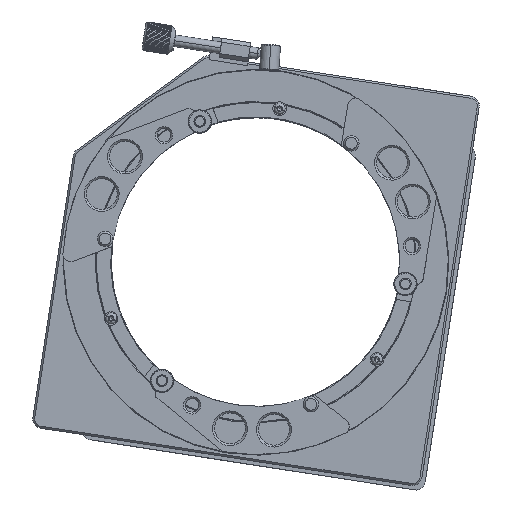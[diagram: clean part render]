
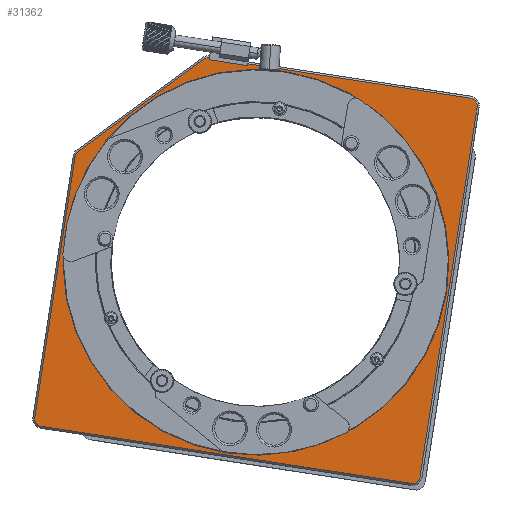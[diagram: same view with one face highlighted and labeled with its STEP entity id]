
A CAD part, top view. The second image highlights one B-rep face of the part: STEP entity #31362.
In plain terms, the highlighted planar face has unit normal (-0.002, 0, 1).
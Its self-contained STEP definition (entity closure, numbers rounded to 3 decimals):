
#4788=CARTESIAN_POINT('',(18.626,99.574,9.824));
#4789=VERTEX_POINT('',#4788);
#4798=CARTESIAN_POINT('',(202.448,71.198,10.242));
#4799=VERTEX_POINT('',#4798);
#4800=CARTESIAN_POINT('',(110.537,85.386,10.033));
#4801=DIRECTION('',(-0.002,0.,1.));
#4802=DIRECTION('',(-0.988,0.153,-0.002));
#4803=AXIS2_PLACEMENT_3D('',#4800,#4801,#4802);
#4804=CIRCLE('',#4803,93.0);
#4805=EDGE_CURVE('',#4789,#4799,#4804,.T.);
#10733=CARTESIAN_POINT('',(86.414,191.305,9.95));
#10734=VERTEX_POINT('',#10733);
#10748=CARTESIAN_POINT('',(86.261,190.317,9.95));
#10749=VERTEX_POINT('',#10748);
#10750=CARTESIAN_POINT('',(86.261,190.317,9.95));
#10751=DIRECTION('',(0.153,0.988,0.));
#10752=VECTOR('',#10751,0.999);
#10753=LINE('',#10750,#10752);
#10754=EDGE_CURVE('',#10749,#10734,#10753,.T.);
#10794=CARTESIAN_POINT('',(106.027,187.266,9.995));
#10795=VERTEX_POINT('',#10794);
#10796=CARTESIAN_POINT('',(106.027,187.266,9.995));
#10797=DIRECTION('',(-0.988,0.153,-0.002));
#10798=VECTOR('',#10797,20.);
#10799=LINE('',#10796,#10798);
#10800=EDGE_CURVE('',#10795,#10749,#10799,.T.);
#10825=CARTESIAN_POINT('',(106.18,188.255,9.995));
#10826=VERTEX_POINT('',#10825);
#10827=CARTESIAN_POINT('',(106.18,188.255,9.995));
#10828=DIRECTION('',(-0.153,-0.988,0.));
#10829=VECTOR('',#10828,1.);
#10830=LINE('',#10827,#10829);
#10831=EDGE_CURVE('',#10826,#10795,#10830,.T.);
#30192=CARTESIAN_POINT('',(110.537,85.386,10.033));
#30193=DIRECTION('',(-0.002,0.,1.));
#30194=DIRECTION('',(-0.988,0.153,-0.002));
#30195=AXIS2_PLACEMENT_3D('',#30192,#30193,#30194);
#30196=CIRCLE('',#30195,93.0);
#30197=EDGE_CURVE('',#4799,#4789,#30196,.T.);
#31265=CARTESIAN_POINT('',(115.172,79.059,10.045));
#31266=DIRECTION('',(-0.002,0.,1.));
#31267=DIRECTION('',(0.988,-0.153,0.002));
#31268=AXIS2_PLACEMENT_3D('',#31265,#31266,#31267);
#31269=PLANE('',#31268);
#31270=CARTESIAN_POINT('',(83.51,190.569,9.944));
#31271=VERTEX_POINT('',#31270);
#31272=CARTESIAN_POINT('',(85.874,187.342,9.95));
#31273=DIRECTION('',(0.002,0.,-1.));
#31274=DIRECTION('',(-0.237,0.971,-0.001));
#31275=AXIS2_PLACEMENT_3D('',#31272,#31273,#31274);
#31276=CIRCLE('',#31275,4.);
#31277=EDGE_CURVE('',#31271,#10734,#31276,.T.);
#31278=ORIENTED_EDGE('',*,*,#31277,.F.);
#31279=CARTESIAN_POINT('',(18.4,142.872,9.811));
#31280=VERTEX_POINT('',#31279);
#31281=CARTESIAN_POINT('',(18.4,142.872,9.811));
#31282=DIRECTION('',(0.807,0.591,0.002));
#31283=VECTOR('',#31282,80.711);
#31284=LINE('',#31281,#31283);
#31285=EDGE_CURVE('',#31280,#31271,#31284,.T.);
#31286=ORIENTED_EDGE('',*,*,#31285,.F.);
#31287=CARTESIAN_POINT('',(16.811,140.256,9.809));
#31288=VERTEX_POINT('',#31287);
#31289=CARTESIAN_POINT('',(20.764,139.645,9.818));
#31290=DIRECTION('',(0.002,0.,-1.));
#31291=DIRECTION('',(-0.855,0.519,-0.002));
#31292=AXIS2_PLACEMENT_3D('',#31289,#31290,#31291);
#31293=CIRCLE('',#31292,4.);
#31294=EDGE_CURVE('',#31288,#31280,#31293,.T.);
#31295=ORIENTED_EDGE('',*,*,#31294,.F.);
#31296=CARTESIAN_POINT('',(-4.079,4.93,9.799));
#31297=VERTEX_POINT('',#31296);
#31298=CARTESIAN_POINT('',(-4.079,4.93,9.799));
#31299=DIRECTION('',(0.153,0.988,0.));
#31300=VECTOR('',#31299,136.929);
#31301=LINE('',#31298,#31300);
#31302=EDGE_CURVE('',#31297,#31288,#31301,.T.);
#31303=ORIENTED_EDGE('',*,*,#31302,.F.);
#31304=CARTESIAN_POINT('',(-0.736,0.366,9.808));
#31305=VERTEX_POINT('',#31304);
#31306=CARTESIAN_POINT('',(-0.125,4.319,9.808));
#31307=DIRECTION('',(0.002,0.,-1.));
#31308=DIRECTION('',(-0.807,-0.591,-0.002));
#31309=AXIS2_PLACEMENT_3D('',#31306,#31307,#31308);
#31310=CIRCLE('',#31309,4.0);
#31311=EDGE_CURVE('',#31305,#31297,#31310,.T.);
#31312=ORIENTED_EDGE('',*,*,#31311,.F.);
#31313=CARTESIAN_POINT('',(190.993,-29.23,10.244));
#31314=VERTEX_POINT('',#31313);
#31315=CARTESIAN_POINT('',(190.993,-29.23,10.244));
#31316=DIRECTION('',(-0.988,0.153,-0.002));
#31317=VECTOR('',#31316,194.);
#31318=LINE('',#31315,#31317);
#31319=EDGE_CURVE('',#31314,#31305,#31318,.T.);
#31320=ORIENTED_EDGE('',*,*,#31319,.F.);
#31321=CARTESIAN_POINT('',(195.556,-25.887,10.253));
#31322=VERTEX_POINT('',#31321);
#31323=CARTESIAN_POINT('',(191.603,-25.277,10.244));
#31324=DIRECTION('',(0.002,0.,-1.));
#31325=DIRECTION('',(0.591,-0.807,0.002));
#31326=AXIS2_PLACEMENT_3D('',#31323,#31324,#31325);
#31327=CIRCLE('',#31326,4.);
#31328=EDGE_CURVE('',#31322,#31314,#31327,.T.);
#31329=ORIENTED_EDGE('',*,*,#31328,.F.);
#31330=CARTESIAN_POINT('',(225.153,165.842,10.267));
#31331=VERTEX_POINT('',#31330);
#31332=CARTESIAN_POINT('',(225.153,165.842,10.267));
#31333=DIRECTION('',(-0.153,-0.988,0.));
#31334=VECTOR('',#31333,194.);
#31335=LINE('',#31332,#31334);
#31336=EDGE_CURVE('',#31331,#31322,#31335,.T.);
#31337=ORIENTED_EDGE('',*,*,#31336,.F.);
#31338=CARTESIAN_POINT('',(221.81,170.405,10.258));
#31339=VERTEX_POINT('',#31338);
#31340=CARTESIAN_POINT('',(221.2,166.452,10.258));
#31341=DIRECTION('',(0.002,0.,-1.));
#31342=DIRECTION('',(0.807,0.591,0.002));
#31343=AXIS2_PLACEMENT_3D('',#31340,#31341,#31342);
#31344=CIRCLE('',#31343,4.);
#31345=EDGE_CURVE('',#31339,#31331,#31344,.T.);
#31346=ORIENTED_EDGE('',*,*,#31345,.F.);
#31347=CARTESIAN_POINT('',(106.18,188.255,9.995));
#31348=DIRECTION('',(0.988,-0.153,0.002));
#31349=VECTOR('',#31348,117.);
#31350=LINE('',#31347,#31349);
#31351=EDGE_CURVE('',#10826,#31339,#31350,.T.);
#31352=ORIENTED_EDGE('',*,*,#31351,.F.);
#31353=ORIENTED_EDGE('',*,*,#10831,.T.);
#31354=ORIENTED_EDGE('',*,*,#10800,.T.);
#31355=ORIENTED_EDGE('',*,*,#10754,.T.);
#31356=EDGE_LOOP('',(#31278,#31286,#31295,#31303,#31312,#31320,#31329,#31337,#31346,#31352,#31353,#31354,#31355));
#31357=FACE_OUTER_BOUND('',#31356,.T.);
#31358=ORIENTED_EDGE('',*,*,#30197,.F.);
#31359=ORIENTED_EDGE('',*,*,#4805,.F.);
#31360=EDGE_LOOP('',(#31358,#31359));
#31361=FACE_BOUND('',#31360,.T.);
#31362=ADVANCED_FACE('',(#31357,#31361),#31269,.T.);
